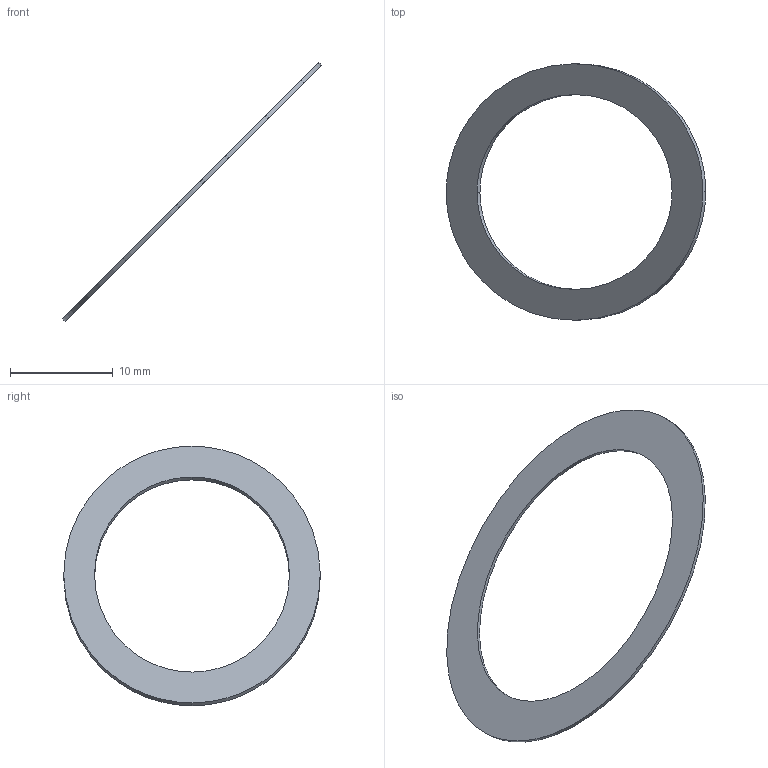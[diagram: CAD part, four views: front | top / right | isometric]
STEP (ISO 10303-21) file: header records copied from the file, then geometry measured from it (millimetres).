
FILE_DESCRIPTION (( 'STEP AP214' ), '1' );
FILE_NAME ('ｻｷﾐﾎｷｴﾉ萓ｵ_ｲﾊｺ邵ﾟﾂﾁ_25mm_35.36mm_0.4mm.STEP', '2026-01-28T08:28:58', ( '' ), ( '' ), 'SwSTEP 2.0', 'SolidWorks 2024', '' );
FILE_SCHEMA (( 'AUTOMOTIVE_DESIGN' ));
Length unit declared in the file: millimetre
Products named in the file (1): 环形反射镜_彩虹高铝_25mm_35.36mm_0.4mm
Bounding box: 25.28 x 25 x 25.28 mm (x, y, z)
Volume: 117.3 mm3; surface area: 653.6 mm2
Topology: 1 solids, 1 shells, 6 faces, 12 edges, 8 vertices
Faces by surface type: bspline 4, plane 2
Entity records: 195 total; most frequent: CARTESIAN_POINT 79, ORIENTED_EDGE 24, EDGE_CURVE 12, DIRECTION 10, VERTEX_POINT 8, EDGE_LOOP 8, ADVANCED_FACE 6, FACE_OUTER_BOUND 6
